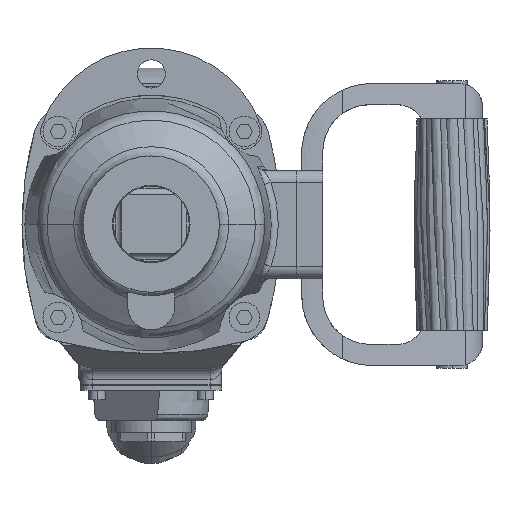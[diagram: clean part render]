
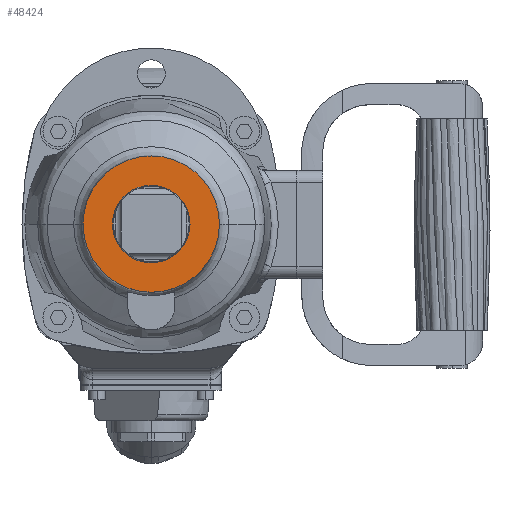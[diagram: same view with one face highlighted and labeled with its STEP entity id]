
A CAD part, top view. The second image highlights one B-rep face of the part: STEP entity #48424.
In plain terms, the highlighted planar face has unit normal (0, 0, 1).
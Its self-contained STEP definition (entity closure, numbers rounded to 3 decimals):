
#3747 = EDGE_CURVE ( 'NONE', #101623, #3870, #82404, .T. ) ;
#3870 = VERTEX_POINT ( 'NONE', #84893 ) ;
#4515 = VERTEX_POINT ( 'NONE', #94634 ) ;
#4599 = VERTEX_POINT ( 'NONE', #94777 ) ;
#4613 = EDGE_CURVE ( 'NONE', #4515, #4599, #94820, .T. ) ;
#33731 = DIRECTION ( 'NONE',  ( -1., 0., 0. ) ) ;
#33732 = DIRECTION ( 'NONE',  ( 0., 0., -1. ) ) ;
#33733 = CARTESIAN_POINT ( 'NONE',  ( 0., 0., 0. ) ) ;
#33734 = AXIS2_PLACEMENT_3D ( 'NONE', #33733, #33732, #33731 ) ;
#33735 = PLANE ( 'NONE',  #33734 ) ;
#33736 = FACE_BOUND ( 'NONE', #48480, .T. ) ;
#33737 = FACE_OUTER_BOUND ( 'NONE', #48418, .T. ) ;
#33870 = CIRCLE ( 'NONE', #33932, 29. ) ;
#33871 = DIRECTION ( 'NONE',  ( 1., 0., 0. ) ) ;
#33872 = DIRECTION ( 'NONE',  ( 0., 0., 1. ) ) ;
#33873 = CARTESIAN_POINT ( 'NONE',  ( 0., 0., 0. ) ) ;
#33874 = AXIS2_PLACEMENT_3D ( 'NONE', #33873, #33872, #33871 ) ;
#33875 = CIRCLE ( 'NONE', #33874, 16.5 ) ;
#33929 = DIRECTION ( 'NONE',  ( 1., 0., 0. ) ) ;
#33930 = DIRECTION ( 'NONE',  ( 0., 0., 1. ) ) ;
#33931 = CARTESIAN_POINT ( 'NONE',  ( 0., 0., 0. ) ) ;
#33932 = AXIS2_PLACEMENT_3D ( 'NONE', #33931, #33930, #33929 ) ;
#48418 = EDGE_LOOP ( 'NONE', ( #48467, #48468 ) ) ;
#48424 = ADVANCED_FACE ( 'NONE', ( #33737, #33736 ), #33735, .F. ) ;
#48467 = ORIENTED_EDGE ( 'NONE', *, *, #4613, .T. ) ;
#48468 = ORIENTED_EDGE ( 'NONE', *, *, #48479, .T. ) ;
#48476 = ORIENTED_EDGE ( 'NONE', *, *, #48477, .F. ) ;
#48477 = EDGE_CURVE ( 'NONE', #3870, #101623, #33875, .T. ) ;
#48478 = ORIENTED_EDGE ( 'NONE', *, *, #3747, .F. ) ;
#48479 = EDGE_CURVE ( 'NONE', #4599, #4515, #33870, .T. ) ;
#48480 = EDGE_LOOP ( 'NONE', ( #48476, #48478 ) ) ;
#72886 = CARTESIAN_POINT ( 'NONE',  ( -16.5, 0., 0. ) ) ;
#82398 = DIRECTION ( 'NONE',  ( 1., 0., 0. ) ) ;
#82399 = DIRECTION ( 'NONE',  ( 0., 0., 1. ) ) ;
#82401 = CARTESIAN_POINT ( 'NONE',  ( 0., 0., 0. ) ) ;
#82402 = AXIS2_PLACEMENT_3D ( 'NONE', #82401, #82399, #82398 ) ;
#82404 = CIRCLE ( 'NONE', #82402, 16.5 ) ;
#84893 = CARTESIAN_POINT ( 'NONE',  ( 16.5, 0., 0. ) ) ;
#94634 = CARTESIAN_POINT ( 'NONE',  ( 29., 0., 0. ) ) ;
#94759 = CARTESIAN_POINT ( 'NONE',  ( 0., 0., 0. ) ) ;
#94777 = CARTESIAN_POINT ( 'NONE',  ( -29., 0., 0. ) ) ;
#94817 = DIRECTION ( 'NONE',  ( 1., 0., 0. ) ) ;
#94818 = DIRECTION ( 'NONE',  ( 0., 0., 1. ) ) ;
#94819 = AXIS2_PLACEMENT_3D ( 'NONE', #94759, #94818, #94817 ) ;
#94820 = CIRCLE ( 'NONE', #94819, 29. ) ;
#101623 = VERTEX_POINT ( 'NONE', #72886 ) ;
